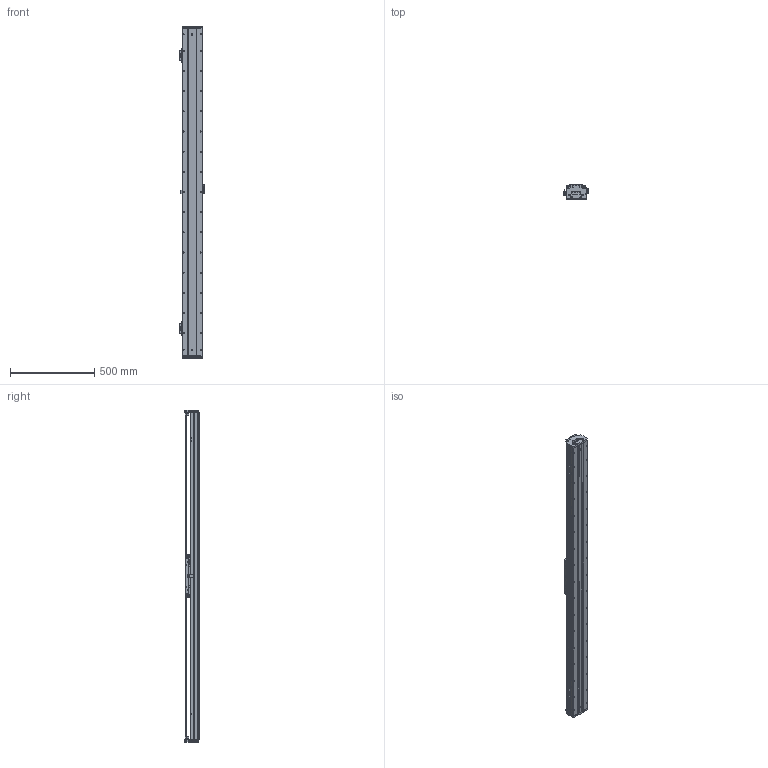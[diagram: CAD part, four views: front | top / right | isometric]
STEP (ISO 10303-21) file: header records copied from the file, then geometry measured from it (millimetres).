
FILE_DESCRIPTION (( 'STEP AP203' ), '1' );
FILE_NAME ('DKW120-B3-W060（T1620-L005-0.2）.STEP', '2021-09-07T01:11:15', ( '微软用户' ), ( '微软中国' ), 'SwSTEP 2.0', 'SolidWorks 2018', '' );
FILE_SCHEMA (( 'CONFIG_CONTROL_DESIGN' ));
Length unit declared in the file: millimetre
Products named in the file (20): 12160-0000-003-00 DKW120詩湍嶺輸; B3-W060_00; 12160-0000-004-00  DKW120詩湍揤輸; DKW120-B3-W060（T1620-L005-0.2）; DKW120-B15-T300-DZ-00 菁釱; DKW120 单轴模组-拉钢带组件; MSB15-DG-U; BKMA01-W060-TRL280; 06652-0001-001-00 DKW120傷啣; RUS嫖掑喜; 06652-0001-004-00 DKW120嶺輸菜輸; Ru2; DKW-HXJ-JY-00 遣喳砎蝶; 10980-0001-003-00 嫖萇羲壽嘐隅釱; RUS嫖掑郪璃; 10940-0001-004-00 120詩湍裔啣; DKW-SG-GYP-H-00 嫖萇覜茼え; DKW119-RU-DTJ-00 RU2黍杅芛盓殤; 砎蝶猾沭; EE_SX674A
Assembly tree (33 placements, depth 3):
  DKW120-B3-W060（T1620-L005-0.2）
    DKW120-B15-T300-DZ-00 菁釱
    MSB15-DG-U  x2
    DKW120 单轴模组-拉钢带组件
      06652-0001-001-00 DKW120傷啣  x2
      06652-0001-004-00 DKW120嶺輸菜輸  x4
      DKW-HXJ-JY-00 遣喳砎蝶  x4
      10940-0001-004-00 120詩湍裔啣
      砎蝶猾沭  x2
      12160-0000-003-00 DKW120詩湍嶺輸  x2
      12160-0000-004-00  DKW120詩湍揤輸  x2
    BKMA01-W060-TRL280
    RUS嫖掑郪璃
      RUS嫖掑喜
      Ru2
    DKW119-RU-DTJ-00 RU2黍杅芛盓殤
    10980-0001-003-00 嫖萇羲壽嘐隅釱  x2
    DKW-SG-GYP-H-00 嫖萇覜茼え
    EE_SX674A  x3
    B3-W060_00
Bounding box: 154.1 x 84 x 1976 mm (x, y, z)
Volume: 7029859 mm3; surface area: 2745914.8 mm2
Topology: 41 solids, 90 shells, 4320 faces, 11904 edges, 7669 vertices
Faces by surface type: plane 2283, cylinder 1442, cone 348, bspline 247
Entity records: 138766 total; most frequent: CARTESIAN_POINT 48149, ORIENTED_EDGE 18837, DIRECTION 17494, EDGE_CURVE 9459, VERTEX_POINT 6216, AXIS2_PLACEMENT_3D 5870, LINE 5754, VECTOR 5754
